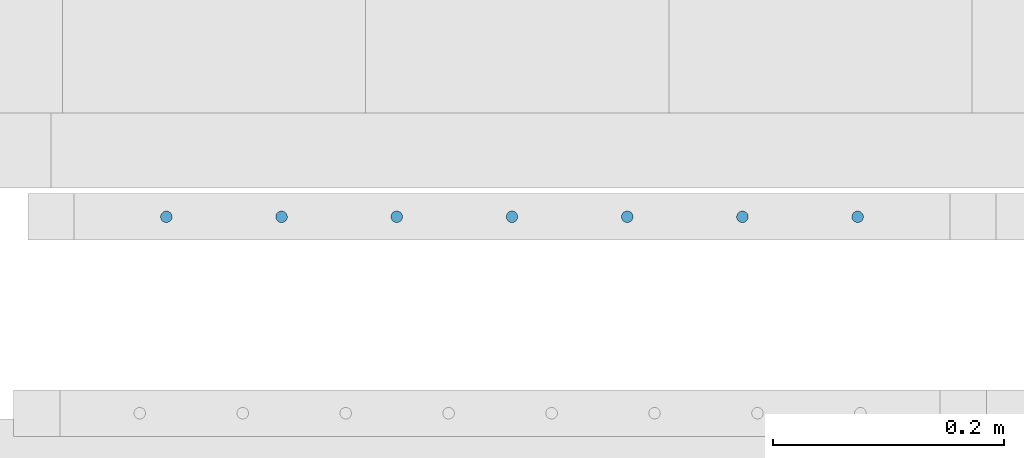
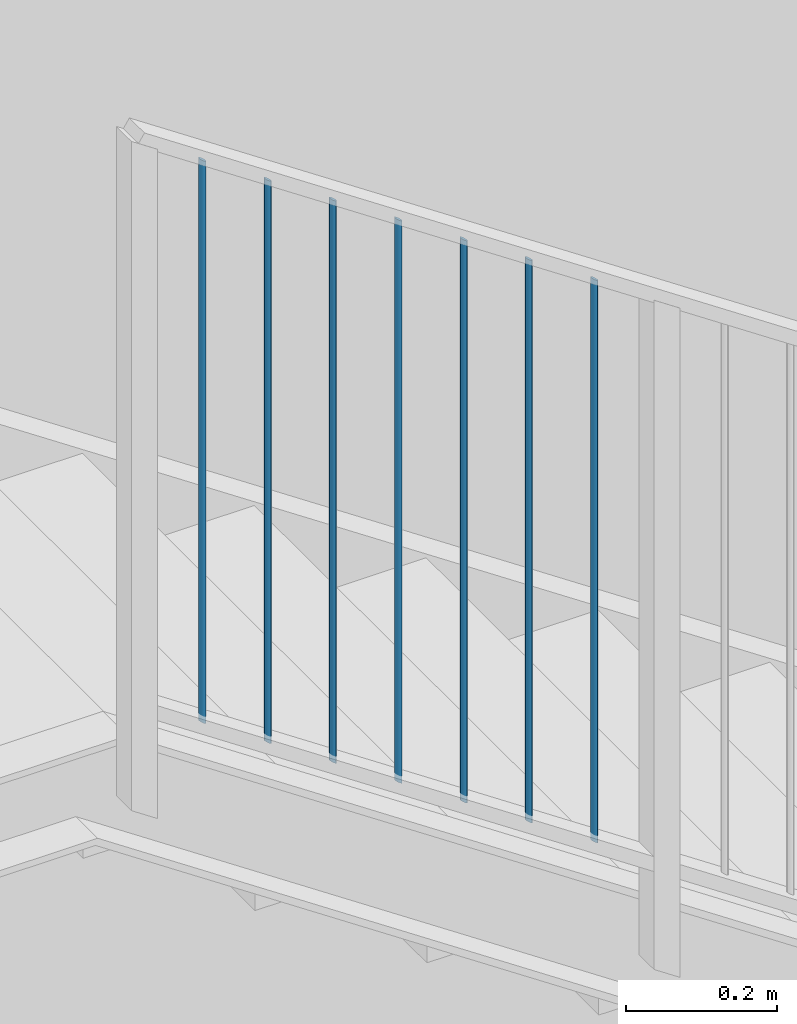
# One storey, part 5 of 117: 7 members, 1 element without a shape of its own.
"""IFC2X3 building model written with IfcOpenShell, lengths in millimetres."""

from ifc_helpers import new_model, entity, si_unit, converted_unit, derived_unit, money_unit, direction, frame, origin_with_axes, place, context, subcontext, project, spatial, faceted_brep, source, transform, mapped, material, type_object, type_shapes, element, aggregate, save


model = new_model("IFC2X3")

# Units and contexts
model_context = context("Model", 3, precision=0.01, world=origin_with_axes(), true_north=direction((0.0, 1.0)))
body_context = subcontext(model_context, "Body", "Model", "MODEL_VIEW")
ifc_project = project(units=[si_unit("LENGTHUNIT", "METRE", prefix="MILLI"), si_unit("AREAUNIT", "SQUARE_METRE"), si_unit("VOLUMEUNIT", "CUBIC_METRE"), converted_unit("PLANEANGLEUNIT", "DEGREE", entity("IfcPlaneAngleMeasure", 0.0174532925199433), si_unit("PLANEANGLEUNIT", "RADIAN"), dimensions=[0, 0, 0, 0, 0, 0, 0]), money_unit("EUR"), converted_unit("TIMEUNIT", "Year", entity("IfcTimeMeasure", 31557600.0), si_unit("TIMEUNIT", "SECOND"), dimensions=[0, 0, 1, 0, 0, 0, 0]), si_unit("MASSUNIT", "GRAM", prefix="KILO"), si_unit("THERMODYNAMICTEMPERATUREUNIT", "DEGREE_CELSIUS"), si_unit("LUMINOUSINTENSITYUNIT", "LUMEN"), si_unit("ENERGYUNIT", "JOULE", prefix="MEGA"), derived_unit("THERMALCONDUCTANCEUNIT", [(si_unit("POWERUNIT", "WATT"), 1), (si_unit("LENGTHUNIT", "METRE"), -1), (si_unit("THERMODYNAMICTEMPERATUREUNIT", "KELVIN"), -1)]), derived_unit("SPECIFICHEATCAPACITYUNIT", [(si_unit("ENERGYUNIT", "JOULE"), 1), (si_unit("MASSUNIT", "GRAM", prefix="KILO"), -1), (si_unit("THERMODYNAMICTEMPERATUREUNIT", "KELVIN"), -1)]), derived_unit("MASSDENSITYUNIT", [(si_unit("MASSUNIT", "GRAM", prefix="KILO"), 1), (si_unit("VOLUMEUNIT", "CUBIC_METRE"), -1)])], contexts=[model_context])

# Site, building, storey
site_placement = place(None, origin_with_axes())
site = spatial("IfcSite", under=ifc_project, at=site_placement, Name="Site", CompositionType="ELEMENT")
building_placement = place(site_placement, origin_with_axes())
building = spatial("IfcBuilding", under=site, at=building_placement, Name="Naam gebouw", CompositionType="ELEMENT")
storey_placement = place(building_placement, frame((0.0, 0.0, 4150.0), z_axis=(0.0, 0.0, 1.0), x_axis=(1.0, 0.0, 0.0)))
storey = spatial("IfcBuildingStorey", under=building, at=storey_placement, Name="1e verdieping N", CompositionType="ELEMENT", Elevation=4150.0)

# Railing, members
railing_type = type_object("IfcRailingType", Name="Railing Type", PredefinedType="NOTDEFINED")
railing_placement = place(storey_placement, frame((56130.0, 22505.9124251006, 1905.987766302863), z_axis=(0.0, 0.0, 1.0), x_axis=(1.0, 0.0, 0.0)))
railing = element("IfcRailing", 1, at=railing_placement, inside=storey, type_object=railing_type, Name="_Reling-x", PredefinedType="NOTDEFINED")
ifc_material = material(Name="Metaal - Staal C")
member_type = type_object("IfcMemberType", Name="IfcMember", PredefinedType="MEMBER")
shared_shape = source(origin_with_axes(), body_context, "Body", "Brep", [
    faceted_brep([(0.0, -5.0, 3.357180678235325), (0.0, -5.000000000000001, 910.8571806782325), (-0.8682408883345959, -4.924038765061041, 910.806177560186), (-0.8682408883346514, -4.92403876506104, 3.306177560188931), (0.8682408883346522, -4.92403876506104, 3.306177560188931), (0.8682408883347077, -4.924038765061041, 910.806177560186), (1.710100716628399, -4.698463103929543, 910.6547179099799), (2.500000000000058, -4.330127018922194, 910.4074037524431), (3.213938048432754, -3.83022221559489, 910.0717496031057), (3.830222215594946, -3.213938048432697, 909.6579541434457), (4.330127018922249, -2.500000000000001, 909.1785903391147), (4.698463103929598, -1.710100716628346, 908.6482234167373), (4.924038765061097, -0.8682408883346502, 908.0829683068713), (5.000000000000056, 0.0, 907.499999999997), (4.924038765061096, 0.8682408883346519, 906.9170316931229), (4.698463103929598, 1.710100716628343, 906.3517765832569), (4.330127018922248, 2.500000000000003, 905.8214096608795), (3.830222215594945, 3.213938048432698, 905.3420458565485), (3.213938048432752, 3.830222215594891, 904.9282503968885), (2.500000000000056, 4.330127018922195, 904.5925962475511), (1.710100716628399, 4.698463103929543, 904.3452820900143), (0.8682408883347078, 4.924038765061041, 904.1938224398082), (0.0, 5.000000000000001, 904.1428193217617), (-0.868240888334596, 4.924038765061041, 904.1938224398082), (-1.710100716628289, 4.698463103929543, 904.3452820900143), (-2.499999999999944, 4.330127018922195, 904.5925962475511), (-3.213938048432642, 3.83022221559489, 904.9282503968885), (-3.830222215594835, 3.213938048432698, 905.3420458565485), (-4.330127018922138, 2.499999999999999, 905.8214096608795), (-4.698463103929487, 1.710100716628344, 906.3517765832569), (-4.924038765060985, 0.8682408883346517, 906.9170316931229), (-4.999999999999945, 0.0, 907.499999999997), (-4.924038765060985, -0.8682408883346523, 908.0829683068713), (-4.698463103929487, -1.710100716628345, 908.6482234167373), (-4.330127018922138, -2.500000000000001, 909.1785903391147), (-3.830222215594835, -3.213938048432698, 909.6579541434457), (-3.213938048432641, -3.830222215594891, 910.0717496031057), (-2.499999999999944, -4.330127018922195, 910.4074037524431), (-1.710100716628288, -4.698463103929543, 910.6547179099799), (-1.710100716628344, -4.698463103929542, 3.154717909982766), (-2.5, -4.330127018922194, 2.907403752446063), (-3.213938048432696, -3.83022221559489, 2.571749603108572), (-3.83022221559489, -3.213938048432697, 2.15795414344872), (-4.330127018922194, -2.5, 1.678590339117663), (-4.698463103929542, -1.710100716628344, 1.148223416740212), (-4.92403876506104, -0.8682408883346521, 0.5829683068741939), (-5.0, 0.0, 0.0), (-4.92403876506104, 0.8682408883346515, -0.582968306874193), (-4.698463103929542, 1.710100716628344, -1.148223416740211), (-4.330127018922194, 2.499999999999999, -1.678590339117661), (-3.83022221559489, 3.213938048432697, -2.157954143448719), (-3.213938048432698, 3.83022221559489, -2.571749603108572), (-2.5, 4.330127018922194, -2.907403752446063), (-1.710100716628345, 4.698463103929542, -3.154717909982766), (-0.8682408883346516, 4.92403876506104, -3.306177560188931), (0.0, 5.0, -3.357180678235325), (0.8682408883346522, 4.92403876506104, -3.306177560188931), (1.710100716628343, 4.698463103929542, -3.154717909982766), (2.5, 4.330127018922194, -2.907403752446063), (3.213938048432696, 3.83022221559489, -2.571749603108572), (3.83022221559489, 3.213938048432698, -2.157954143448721), (4.330127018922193, 2.500000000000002, -1.678590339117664), (4.698463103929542, 1.710100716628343, -1.148223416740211), (4.92403876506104, 0.8682408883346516, -0.5829683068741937), (5.0, 0.0, 0.0), (4.924038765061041, -0.86824088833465, 0.5829683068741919), (4.698463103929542, -1.710100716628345, 1.148223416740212), (4.330127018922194, -2.5, 1.678590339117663), (3.830222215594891, -3.213938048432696, 2.157954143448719), (3.213938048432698, -3.830222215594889, 2.571749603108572), (2.500000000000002, -4.330127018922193, 2.907403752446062), (1.710100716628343, -4.698463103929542, 3.154717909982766)], [[[0, 1, 2, 3]], [[4, 5, 1, 0]], [[1, 5, 6, 7, 8, 9, 10, 11, 12, 13, 14, 15, 16, 17, 18, 19, 20, 21, 22, 23, 24, 25, 26, 27, 28, 29, 30, 31, 32, 33, 34, 35, 36, 37, 38, 2]], [[3, 2, 38, 39]], [[0, 3, 39, 40, 41, 42, 43, 44, 45, 46, 47, 48, 49, 50, 51, 52, 53, 54, 55, 56, 57, 58, 59, 60, 61, 62, 63, 64, 65, 66, 67, 68, 69, 70, 71, 4]], [[71, 6, 5, 4]], [[70, 7, 6, 71]], [[69, 8, 7, 70]], [[68, 9, 8, 69]], [[67, 10, 9, 68]], [[66, 11, 10, 67]], [[65, 12, 11, 66]], [[64, 13, 12, 65]], [[63, 14, 13, 64]], [[62, 15, 14, 63]], [[61, 16, 15, 62]], [[60, 17, 16, 61]], [[59, 18, 17, 60]], [[58, 19, 18, 59]], [[57, 20, 19, 58]], [[56, 21, 20, 57]], [[55, 22, 21, 56]], [[54, 23, 22, 55]], [[53, 24, 23, 54]], [[52, 25, 24, 53]], [[51, 26, 25, 52]], [[50, 27, 26, 51]], [[49, 28, 27, 50]], [[48, 29, 28, 49]], [[47, 30, 29, 48]], [[46, 31, 30, 47]], [[45, 32, 31, 46]], [[44, 33, 32, 45]], [[43, 34, 33, 44]], [[42, 35, 34, 43]], [[41, 36, 35, 42]], [[40, 37, 36, 41]], [[39, 38, 37, 40]]]),
])
type_shapes(member_type, [shared_shape])
member_1_placement = place(railing_placement, frame((346.7221919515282, -24.99999999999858, 1609.789589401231), z_axis=(0.0, 0.0, 1.0), x_axis=(1.0, 0.0, 0.0)))
member_1 = element("IfcMember", 2, at=member_1_placement, type_object=member_type, material=ifc_material, Name="_Spijlen-x", ObjectType="MEMBER", context=body_context, shape_type="MappedRepresentation", body=[
    mapped(shared_shape, transform((0.0, 0.0, 0.0), x_axis=(0.0, -1.0, 0.0), y_axis=(1.0, 0.0, 0.0), z_axis=(0.0, 0.0, 1.0))),
])
member_2_placement = place(railing_placement, frame((546.1376535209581, -24.99999999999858, 1475.894842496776), z_axis=(0.0, 0.0, 1.0), x_axis=(1.0, 0.0, 0.0)))
member_2 = element("IfcMember", 3, at=member_2_placement, type_object=member_type, material=ifc_material, Name="_Spijlen-x", ObjectType="MEMBER", context=body_context, shape_type="MappedRepresentation", body=[
    mapped(shared_shape, transform((0.0, 0.0, 0.0), x_axis=(0.0, -1.0, 0.0), y_axis=(1.0, 0.0, 0.0), z_axis=(0.0, 0.0, 1.0))),
])
member_3_placement = place(railing_placement, frame((446.4299227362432, -24.99999999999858, 1542.842215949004), z_axis=(0.0, 0.0, 1.0), x_axis=(1.0, 0.0, 0.0)))
member_3 = element("IfcMember", 4, at=member_3_placement, type_object=member_type, material=ifc_material, Name="_Spijlen-x", ObjectType="MEMBER", context=body_context, shape_type="MappedRepresentation", body=[
    mapped(shared_shape, transform((0.0, 0.0, 0.0), x_axis=(0.0, -1.0, 0.0), y_axis=(1.0, 0.0, 0.0), z_axis=(0.0, 0.0, 1.0))),
])
member_4_placement = place(railing_placement, frame((645.8453843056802, -24.99999999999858, 1408.947469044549), z_axis=(0.0, 0.0, 1.0), x_axis=(1.0, 0.0, 0.0)))
member_4 = element("IfcMember", 5, at=member_4_placement, type_object=member_type, material=ifc_material, Name="_Spijlen-x", ObjectType="MEMBER", context=body_context, shape_type="MappedRepresentation", body=[
    mapped(shared_shape, transform((0.0, 0.0, 0.0), x_axis=(0.0, -1.0, 0.0), y_axis=(1.0, 0.0, 0.0), z_axis=(0.0, 0.0, 1.0))),
])
member_5_placement = place(railing_placement, frame((845.2608458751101, -24.99999999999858, 1275.052722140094), z_axis=(0.0, 0.0, 1.0), x_axis=(1.0, 0.0, 0.0)))
member_5 = element("IfcMember", 6, at=member_5_placement, type_object=member_type, material=ifc_material, Name="_Spijlen-x", ObjectType="MEMBER", context=body_context, shape_type="MappedRepresentation", body=[
    mapped(shared_shape, transform((0.0, 0.0, 0.0), x_axis=(0.0, -1.0, 0.0), y_axis=(1.0, 0.0, 0.0), z_axis=(0.0, 0.0, 1.0))),
])
member_6_placement = place(railing_placement, frame((745.5531150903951, -24.99999999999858, 1342.000095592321), z_axis=(0.0, 0.0, 1.0), x_axis=(1.0, 0.0, 0.0)))
member_6 = element("IfcMember", 7, at=member_6_placement, type_object=member_type, material=ifc_material, Name="_Spijlen-x", ObjectType="MEMBER", context=body_context, shape_type="MappedRepresentation", body=[
    mapped(shared_shape, transform((0.0, 0.0, 0.0), x_axis=(0.0, -1.0, 0.0), y_axis=(1.0, 0.0, 0.0), z_axis=(0.0, 0.0, 1.0))),
])
member_7_placement = place(railing_placement, frame((944.968576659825, -24.99999999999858, 1208.105348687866), z_axis=(0.0, 0.0, 1.0), x_axis=(1.0, 0.0, 0.0)))
member_7 = element("IfcMember", 8, at=member_7_placement, type_object=member_type, material=ifc_material, Name="_Spijlen-x", ObjectType="MEMBER", context=body_context, shape_type="MappedRepresentation", body=[
    mapped(shared_shape, transform((0.0, 0.0, 0.0), x_axis=(0.0, -1.0, 0.0), y_axis=(1.0, 0.0, 0.0), z_axis=(0.0, 0.0, 1.0))),
])
aggregate(railing, [member_1, member_2, member_3, member_4, member_5, member_6, member_7])

save(model, "model.ifc")
